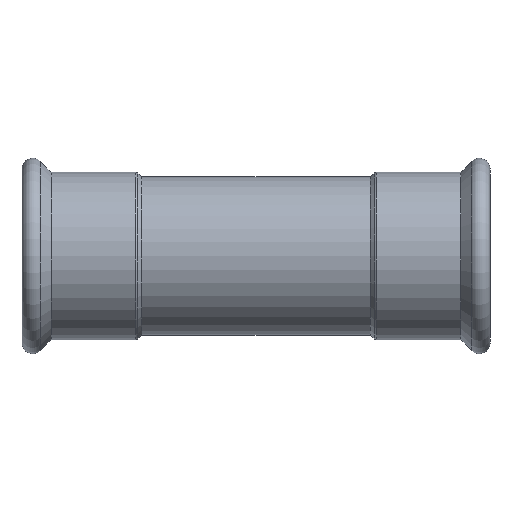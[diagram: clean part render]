
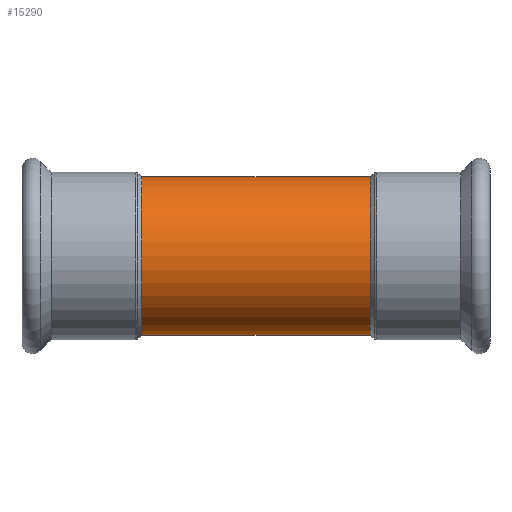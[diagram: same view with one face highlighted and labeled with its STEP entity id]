
A CAD part, top view. The second image highlights one B-rep face of the part: STEP entity #15290.
In plain terms, the highlighted cylindrical face has radius 44.45 mm (diameter 88.9 mm), a partial arc.
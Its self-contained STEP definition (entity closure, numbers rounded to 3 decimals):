
#1360=CARTESIAN_POINT('',(4.,-44.45,0.));
#1370=VERTEX_POINT('',#1360);
#1550=CARTESIAN_POINT('',(4.,44.45,0.));
#1560=VERTEX_POINT('',#1550);
#1590=CARTESIAN_POINT('',(4.,0.,0.));
#1600=DIRECTION('',(1.,0.,0.));
#1610=DIRECTION('',(0.,-1.,0.));
#1620=AXIS2_PLACEMENT_3D('',#1590,#1600,#1610);
#1630=CIRCLE('',#1620,44.45);
#14970=CARTESIAN_POINT('',(4.,0.,0.));
#14980=DIRECTION('',(1.,0.,0.));
#14990=DIRECTION('',(0.,1.,0.));
#15000=AXIS2_PLACEMENT_3D('',#14970,#14980,#14990);
#15010=CYLINDRICAL_SURFACE('',#15000,44.45);
#15020=CARTESIAN_POINT('',(4.,44.45,0.));
#15030=DIRECTION('',(1.,0.,0.));
#15040=VECTOR('',#15030,1.);
#15050=LINE('',#15020,#15040);
#15060=CARTESIAN_POINT('',(-124.,44.45,0.));
#15070=VERTEX_POINT('',#15060);
#15080=EDGE_CURVE('',#15070,#1560,#15050,.T.);
#15090=ORIENTED_EDGE('',*,*,#15080,.F.);
#15100=EDGE_CURVE('',#1560,#1370,#1630,.T.);
#15110=ORIENTED_EDGE('',*,*,#15100,.F.);
#15120=CARTESIAN_POINT('',(4.,-44.45,0.));
#15130=DIRECTION('',(1.,0.,0.));
#15140=VECTOR('',#15130,1.);
#15150=LINE('',#15120,#15140);
#15160=CARTESIAN_POINT('',(-124.,-44.45,0.));
#15170=VERTEX_POINT('',#15160);
#15180=EDGE_CURVE('',#15170,#1370,#15150,.T.);
#15190=ORIENTED_EDGE('',*,*,#15180,.T.);
#15200=CARTESIAN_POINT('',(-124.,0.,0.));
#15210=DIRECTION('',(-1.,0.,0.));
#15220=DIRECTION('',(0.,-1.,0.));
#15230=AXIS2_PLACEMENT_3D('',#15200,#15210,#15220);
#15240=CIRCLE('',#15230,44.45);
#15250=EDGE_CURVE('',#15170,#15070,#15240,.T.);
#15260=ORIENTED_EDGE('',*,*,#15250,.F.);
#15270=EDGE_LOOP('',(#15260,#15190,#15110,#15090));
#15280=FACE_OUTER_BOUND('',#15270,.T.);
#15290=ADVANCED_FACE('',(#15280),#15010,.T.);
